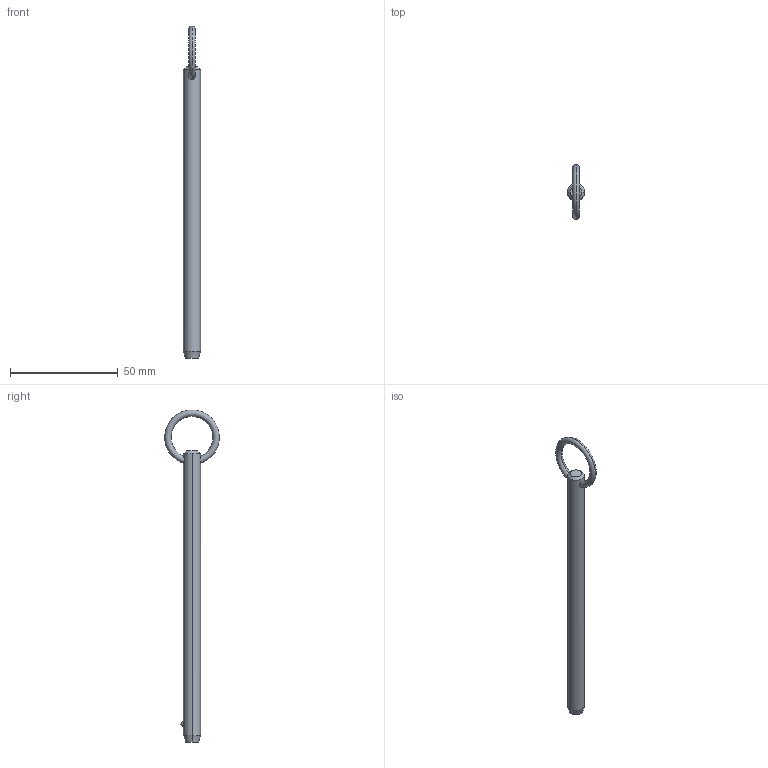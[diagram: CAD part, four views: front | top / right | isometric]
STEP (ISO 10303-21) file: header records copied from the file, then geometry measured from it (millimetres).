
FILE_DESCRIPTION (( 'STEP AP203' ), '1' );
FILE_NAME ('P1250.031-470.step', '2019-07-29T19:57:00', ( '' ), ( '' ), 'SwSTEP 2.0', 'SolidWorks 2017', '' );
FILE_SCHEMA (( 'CONFIG_CONTROL_DESIGN' ));
Length unit declared in the file: millimetre
Products named in the file (1): P1250.031-470
Bounding box: 7.93 x 25.36 x 154.31 mm (x, y, z)
Volume: 7081.5 mm3; surface area: 4005.3 mm2
Topology: 1 solids, 1 shells, 12 faces, 28 edges, 17 vertices
Faces by surface type: cone 4, torus 2, sphere 2, cylinder 2, plane 2
Entity records: 509 total; most frequent: CARTESIAN_POINT 176, DIRECTION 56, ORIENTED_EDGE 48, AXIS2_PLACEMENT_3D 25, EDGE_CURVE 24, EDGE_LOOP 15, VERTEX_POINT 15, FACE_OUTER_BOUND 12
